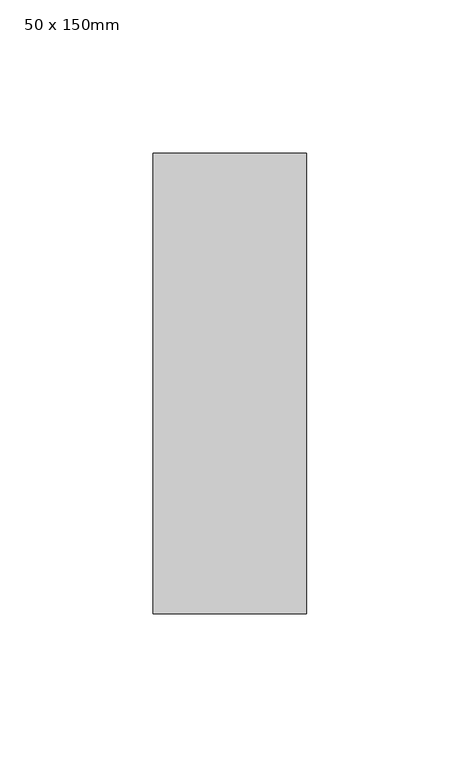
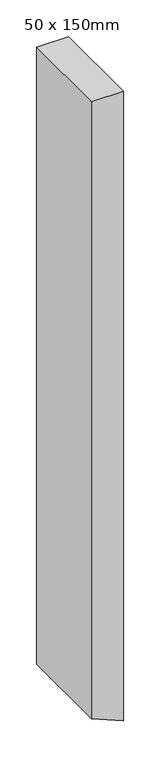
"""IFC4 building model written with IfcOpenShell, lengths in millimetres: member geometry, Prostokątny szpros : 50 x 150mm."""

from ifc_helpers import new_model, si_unit, frame, origin, place, context, project, spatial, polyline, outline, extrude, source, transform, mapped, element, save


def member_50_x_150mm_69942adb(model_context):
    return source(origin(), model_context, "Body", "SweptSolid", [
        extrude(outline(polyline([(0.0, 0.0), (0.0, -50.0), (-1025.7359313, -50.0), (-1046.4466094, 0.0), (0.0, 0.0)])), frame((0.0, -75.0, 0.0), z_axis=(0.0, 1.0, 0.0), x_axis=(0.0, 0.0, 1.0)), (0.0, 0.0, 1.0), 150.0),
    ])


if __name__ == "__main__":
    model = new_model("IFC4")
    model_context = context("Model", 3, world=origin())
    ifc_project = project(units=[si_unit("LENGTHUNIT", "METRE", prefix="MILLI")], contexts=[model_context])
    site = spatial("IfcSite", under=ifc_project)
    building = spatial("IfcBuilding", under=site)
    placement = place(None, origin())
    member_50_x_150mm_shape = member_50_x_150mm_69942adb(model_context)
    element("IfcMember", 1, ObjectType="Prostokątny szpros : 50 x 150mm", at=placement, inside=building, context=model_context, shape_type="MappedRepresentation", body=[
        mapped(member_50_x_150mm_shape, transform((0.0, 0.0, 0.0), x_axis=(1.0, 0.0, 0.0), y_axis=(0.0, 1.0, 0.0), z_axis=(0.0, 0.0, 1.0))),
    ])
    save(model, "model.ifc")
